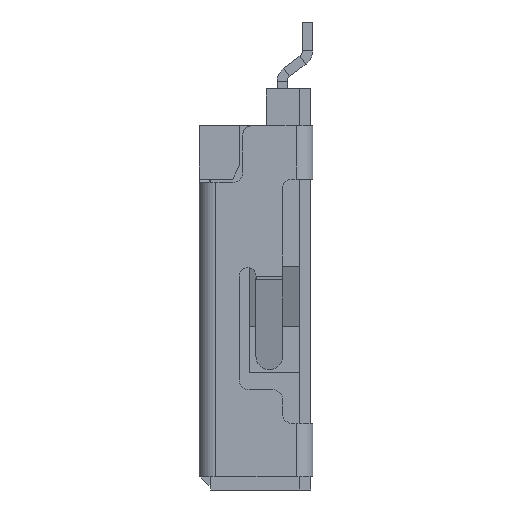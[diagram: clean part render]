
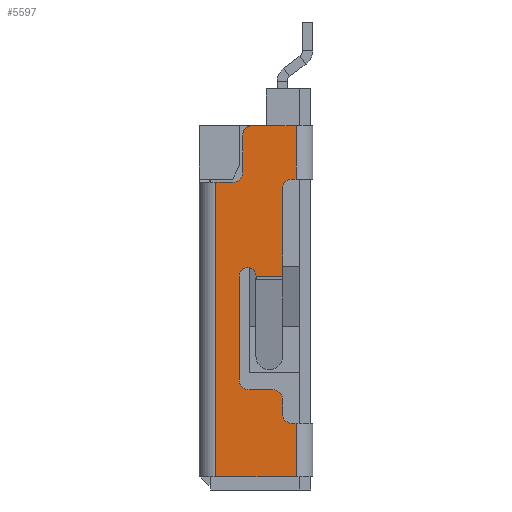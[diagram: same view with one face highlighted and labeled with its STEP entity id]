
A CAD part, left-side view. The second image highlights one B-rep face of the part: STEP entity #5597.
In plain terms, the highlighted planar face has unit normal (-1, 0, 0).
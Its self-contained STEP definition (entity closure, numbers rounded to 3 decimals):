
#2744=DIRECTION('',(0.,1.,0.));
#2745=VECTOR('',#2744,0.25);
#2746=CARTESIAN_POINT('',(-5.625,-0.5,1.775));
#2747=LINE('',#2746,#2745);
#3011=DIRECTION('',(0.,0.,1.));
#3012=VECTOR('',#3011,4.4);
#3013=CARTESIAN_POINT('',(-5.625,-0.25,-2.625));
#3014=LINE('',#3013,#3012);
#3019=CARTESIAN_POINT('',(-5.625,-1.38,1.695));
#3020=DIRECTION('',(-1.,0.,0.));
#3021=DIRECTION('',(0.,0.,1.));
#3022=AXIS2_PLACEMENT_3D('',#3019,#3020,#3021);
#3024=DIRECTION('',(0.,0.,-1.));
#3025=VECTOR('',#3024,1.32);
#3026=CARTESIAN_POINT('',(-5.625,-1.25,1.695));
#3027=LINE('',#3026,#3025);
#3028=CARTESIAN_POINT('',(-5.625,-0.725,0.375));
#3029=DIRECTION('',(-1.,0.,0.));
#3030=DIRECTION('',(0.,-1.,0.));
#3031=AXIS2_PLACEMENT_3D('',#3028,#3029,#3030);
#3033=CARTESIAN_POINT('',(-5.625,-0.75,-1.175));
#3034=DIRECTION('',(-1.,0.,0.));
#3035=DIRECTION('',(0.,1.,0.));
#3036=AXIS2_PLACEMENT_3D('',#3033,#3034,#3035);
#3038=CARTESIAN_POINT('',(-5.625,-1.1,-1.475));
#3039=DIRECTION('',(1.,0.,0.));
#3040=DIRECTION('',(0.,0.,1.));
#3041=AXIS2_PLACEMENT_3D('',#3038,#3039,#3040);
#3043=CARTESIAN_POINT('',(-5.625,-1.38,-1.695));
#3044=DIRECTION('',(-1.,0.,0.));
#3045=DIRECTION('',(0.,1.,0.));
#3046=AXIS2_PLACEMENT_3D('',#3043,#3044,#3045);
#3048=DIRECTION('',(0.,1.,0.));
#3049=VECTOR('',#3048,1.2);
#3050=CARTESIAN_POINT('',(-5.625,-1.45,-2.625));
#3051=LINE('',#3050,#3049);
#3052=CARTESIAN_POINT('',(-5.625,-0.5,1.925));
#3053=DIRECTION('',(-1.,0.,0.));
#3054=DIRECTION('',(0.,0.,-1.));
#3055=AXIS2_PLACEMENT_3D('',#3052,#3053,#3054);
#3057=CARTESIAN_POINT('',(-5.625,-0.8,2.475));
#3058=DIRECTION('',(1.,0.,0.));
#3059=DIRECTION('',(0.,1.,0.));
#3060=AXIS2_PLACEMENT_3D('',#3057,#3058,#3059);
#3062=DIRECTION('',(0.,-1.,0.));
#3063=VECTOR('',#3062,0.65);
#3064=CARTESIAN_POINT('',(-5.625,-0.8,2.625));
#3065=LINE('',#3064,#3063);
#3066=DIRECTION('',(0.,0.,-1.));
#3067=VECTOR('',#3066,0.8);
#3068=CARTESIAN_POINT('',(-5.625,-1.45,2.625));
#3069=LINE('',#3068,#3067);
#3096=DIRECTION('',(0.,-1.,0.));
#3097=VECTOR('',#3096,0.07);
#3098=CARTESIAN_POINT('',(-5.625,-1.38,1.825));
#3099=LINE('',#3098,#3097);
#3155=DIRECTION('',(0.,0.,1.));
#3156=VECTOR('',#3155,0.55);
#3157=CARTESIAN_POINT('',(-5.625,-0.65,1.925));
#3158=LINE('',#3157,#3156);
#3231=DIRECTION('',(0.,0.,-1.));
#3232=VECTOR('',#3231,0.8);
#3233=CARTESIAN_POINT('',(-5.625,-1.45,-1.825));
#3234=LINE('',#3233,#3232);
#3253=DIRECTION('',(0.,1.,0.));
#3254=VECTOR('',#3253,0.07);
#3255=CARTESIAN_POINT('',(-5.625,-1.45,-1.825));
#3256=LINE('',#3255,#3254);
#3367=DIRECTION('',(0.,0.,1.));
#3368=VECTOR('',#3367,0.22);
#3369=CARTESIAN_POINT('',(-5.625,-1.25,-1.695));
#3370=LINE('',#3369,#3368);
#3379=DIRECTION('',(0.,1.,0.));
#3380=VECTOR('',#3379,0.35);
#3381=CARTESIAN_POINT('',(-5.625,-1.1,-1.325));
#3382=LINE('',#3381,#3380);
#3399=DIRECTION('',(0.,0.,1.));
#3400=VECTOR('',#3399,1.55);
#3401=CARTESIAN_POINT('',(-5.625,-0.6,-1.175));
#3402=LINE('',#3401,#3400);
#3425=DIRECTION('',(0.,1.,0.));
#3426=VECTOR('',#3425,0.4);
#3427=CARTESIAN_POINT('',(-5.625,-1.25,
0.375));
#3428=LINE('',#3427,#3426);
#4358=CARTESIAN_POINT('',(-5.625,-1.25,
0.375));
#4360=VERTEX_POINT('',#4358);
#4363=CARTESIAN_POINT('',(-5.625,-1.25,1.695));
#4364=VERTEX_POINT('',#4363);
#4407=CARTESIAN_POINT('',(-5.625,-1.45,1.825));
#4409=VERTEX_POINT('',#4407);
#4411=CARTESIAN_POINT('',(-5.625,-1.45,2.625));
#4412=VERTEX_POINT('',#4411);
#4449=CARTESIAN_POINT('',(-5.625,-0.8,2.625));
#4450=VERTEX_POINT('',#4449);
#4619=CARTESIAN_POINT('',(-5.625,-0.25,-2.625));
#4620=VERTEX_POINT('',#4619);
#4621=CARTESIAN_POINT('',(-5.625,-0.25,1.775));
#4622=VERTEX_POINT('',#4621);
#4625=CARTESIAN_POINT('',(-5.625,-1.45,-2.625));
#4626=VERTEX_POINT('',#4625);
#4629=CARTESIAN_POINT('',(-5.625,-0.65,2.475));
#4630=VERTEX_POINT('',#4629);
#4631=CARTESIAN_POINT('',(-5.625,-0.65,1.925));
#4632=VERTEX_POINT('',#4631);
#4633=CARTESIAN_POINT('',(-5.625,-0.5,1.775));
#4634=VERTEX_POINT('',#4633);
#4635=CARTESIAN_POINT('',(-5.625,-1.45,-1.825));
#4636=VERTEX_POINT('',#4635);
#4637=CARTESIAN_POINT('',(-5.625,-1.38,-1.825));
#4638=VERTEX_POINT('',#4637);
#4639=CARTESIAN_POINT('',(-5.625,-1.25,-1.695));
#4640=VERTEX_POINT('',#4639);
#4641=CARTESIAN_POINT('',(-5.625,-1.25,-1.475));
#4642=VERTEX_POINT('',#4641);
#4643=CARTESIAN_POINT('',(-5.625,-1.1,-1.325));
#4644=VERTEX_POINT('',#4643);
#4645=CARTESIAN_POINT('',(-5.625,-0.75,-1.325));
#4646=VERTEX_POINT('',#4645);
#4647=CARTESIAN_POINT('',(-5.625,-0.6,-1.175));
#4648=VERTEX_POINT('',#4647);
#4649=CARTESIAN_POINT('',(-5.625,-0.6,0.375));
#4650=VERTEX_POINT('',#4649);
#4651=CARTESIAN_POINT('',(-5.625,-0.85,0.375));
#4652=VERTEX_POINT('',#4651);
#4653=CARTESIAN_POINT('',(-5.625,-1.38,1.825));
#4654=VERTEX_POINT('',#4653);
#5550=CARTESIAN_POINT('',(-5.625,-0.85,0.));
#5551=DIRECTION('',(1.,0.,0.));
#5552=DIRECTION('',(0.,1.,0.));
#5553=AXIS2_PLACEMENT_3D('',#5550,#5551,#5552);
#5554=PLANE('',#5553);
#5556=ORIENTED_EDGE('',*,*,#5555,.T.);
#5558=ORIENTED_EDGE('',*,*,#5557,.F.);
#5560=ORIENTED_EDGE('',*,*,#5559,.T.);
#5562=ORIENTED_EDGE('',*,*,#5561,.T.);
#5564=ORIENTED_EDGE('',*,*,#5563,.T.);
#5566=ORIENTED_EDGE('',*,*,#5565,.T.);
#5568=ORIENTED_EDGE('',*,*,#5567,.F.);
#5570=ORIENTED_EDGE('',*,*,#5569,.T.);
#5572=ORIENTED_EDGE('',*,*,#5571,.F.);
#5574=ORIENTED_EDGE('',*,*,#5573,.T.);
#5576=ORIENTED_EDGE('',*,*,#5575,.F.);
#5578=ORIENTED_EDGE('',*,*,#5577,.T.);
#5580=ORIENTED_EDGE('',*,*,#5579,.F.);
#5582=ORIENTED_EDGE('',*,*,#5581,.T.);
#5584=ORIENTED_EDGE('',*,*,#5583,.T.);
#5585=ORIENTED_EDGE('',*,*,#5543,.T.);
#5586=ORIENTED_EDGE('',*,*,#5106,.F.);
#5588=ORIENTED_EDGE('',*,*,#5587,.T.);
#5590=ORIENTED_EDGE('',*,*,#5589,.T.);
#5592=ORIENTED_EDGE('',*,*,#5591,.T.);
#5594=ORIENTED_EDGE('',*,*,#5593,.T.);
#5595=EDGE_LOOP('',(#5556,#5558,#5560,#5562,#5564,#5566,#5568,#5570,#5572,#5574,
#5576,#5578,#5580,#5582,#5584,#5585,#5586,#5588,#5590,#5592,#5594));
#5596=FACE_OUTER_BOUND('',#5595,.F.);
#3023=CIRCLE('',#3022,0.13);
#3032=CIRCLE('',#3031,0.125);
#3037=CIRCLE('',#3036,0.15);
#3042=CIRCLE('',#3041,0.15);
#3047=CIRCLE('',#3046,0.13);
#3056=CIRCLE('',#3055,0.15);
#3061=CIRCLE('',#3060,0.15);
#5106=EDGE_CURVE('',#4634,#4622,#2747,.T.);
#5543=EDGE_CURVE('',#4620,#4622,#3014,.T.);
#5555=EDGE_CURVE('',#4412,#4409,#3069,.T.);
#5557=EDGE_CURVE('',#4654,#4409,#3099,.T.);
#5559=EDGE_CURVE('',#4654,#4364,#3023,.T.);
#5561=EDGE_CURVE('',#4364,#4360,#3027,.T.);
#5563=EDGE_CURVE('',#4360,#4652,#3428,.T.);
#5565=EDGE_CURVE('',#4652,#4650,#3032,.T.);
#5567=EDGE_CURVE('',#4648,#4650,#3402,.T.);
#5569=EDGE_CURVE('',#4648,#4646,#3037,.T.);
#5571=EDGE_CURVE('',#4644,#4646,#3382,.T.);
#5573=EDGE_CURVE('',#4644,#4642,#3042,.T.);
#5575=EDGE_CURVE('',#4640,#4642,#3370,.T.);
#5577=EDGE_CURVE('',#4640,#4638,#3047,.T.);
#5579=EDGE_CURVE('',#4636,#4638,#3256,.T.);
#5581=EDGE_CURVE('',#4636,#4626,#3234,.T.);
#5583=EDGE_CURVE('',#4626,#4620,#3051,.T.);
#5587=EDGE_CURVE('',#4634,#4632,#3056,.T.);
#5589=EDGE_CURVE('',#4632,#4630,#3158,.T.);
#5591=EDGE_CURVE('',#4630,#4450,#3061,.T.);
#5593=EDGE_CURVE('',#4450,#4412,#3065,.T.);
#5597=ADVANCED_FACE('',(#5596),#5554,.F.);
